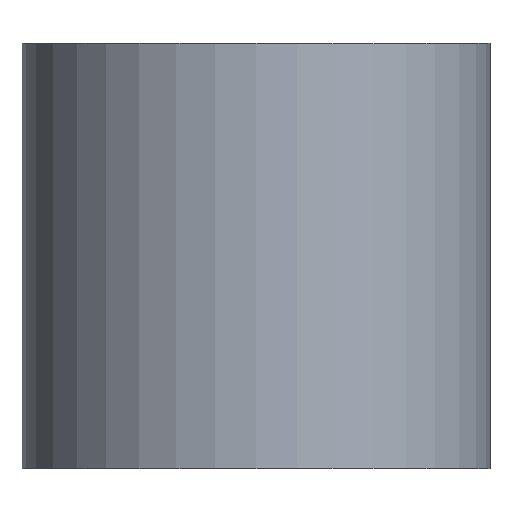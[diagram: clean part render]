
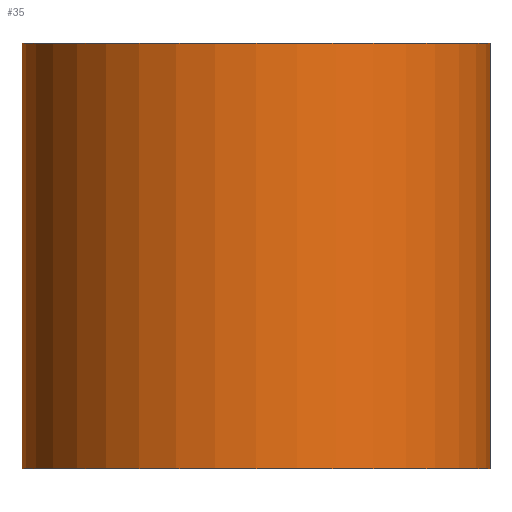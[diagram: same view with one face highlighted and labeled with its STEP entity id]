
A CAD part, front view. The second image highlights one B-rep face of the part: STEP entity #35.
In plain terms, the highlighted cylindrical face has radius 2750 mm (diameter 5500 mm), a full revolution.
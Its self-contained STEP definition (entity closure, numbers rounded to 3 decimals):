
#35 = ADVANCED_FACE('',(#36),#50,.T.);
#36 = FACE_BOUND('',#37,.F.);
#37 = EDGE_LOOP('',(#38,#68,#95,#96));
#38 = ORIENTED_EDGE('',*,*,#39,.T.);
#39 = EDGE_CURVE('',#40,#42,#44,.T.);
#40 = VERTEX_POINT('',#41);
#41 = CARTESIAN_POINT('',(2750.,0.,0.));
#42 = VERTEX_POINT('',#43);
#43 = CARTESIAN_POINT('',(2750.,0.,5000.));
#44 = SEAM_CURVE('',#45,(#49,#61),.PCURVE_S1.);
#45 = LINE('',#46,#47);
#46 = CARTESIAN_POINT('',(2750.,0.,0.));
#47 = VECTOR('',#48,1.);
#48 = DIRECTION('',(0.,0.,1.));
#49 = PCURVE('',#50,#55);
#50 = CYLINDRICAL_SURFACE('',#51,2750.);
#51 = AXIS2_PLACEMENT_3D('',#52,#53,#54);
#52 = CARTESIAN_POINT('',(0.,0.,0.));
#53 = DIRECTION('',(-0.,-0.,-1.));
#54 = DIRECTION('',(1.,0.,0.));
#55 = DEFINITIONAL_REPRESENTATION('',(#56),#60);
#56 = LINE('',#57,#58);
#57 = CARTESIAN_POINT('',(-0.,0.));
#58 = VECTOR('',#59,1.);
#59 = DIRECTION('',(-0.,-1.));
#60 = ( GEOMETRIC_REPRESENTATION_CONTEXT(2) 
PARAMETRIC_REPRESENTATION_CONTEXT() REPRESENTATION_CONTEXT('2D SPACE',''
  ) );
#61 = PCURVE('',#50,#62);
#62 = DEFINITIONAL_REPRESENTATION('',(#63),#67);
#63 = LINE('',#64,#65);
#64 = CARTESIAN_POINT('',(-6.283,0.));
#65 = VECTOR('',#66,1.);
#66 = DIRECTION('',(-0.,-1.));
#67 = ( GEOMETRIC_REPRESENTATION_CONTEXT(2) 
PARAMETRIC_REPRESENTATION_CONTEXT() REPRESENTATION_CONTEXT('2D SPACE',''
  ) );
#68 = ORIENTED_EDGE('',*,*,#69,.T.);
#69 = EDGE_CURVE('',#42,#42,#70,.T.);
#70 = SURFACE_CURVE('',#71,(#76,#83),.PCURVE_S1.);
#71 = CIRCLE('',#72,2750.);
#72 = AXIS2_PLACEMENT_3D('',#73,#74,#75);
#73 = CARTESIAN_POINT('',(0.,0.,5000.));
#74 = DIRECTION('',(0.,0.,1.));
#75 = DIRECTION('',(1.,0.,0.));
#76 = PCURVE('',#50,#77);
#77 = DEFINITIONAL_REPRESENTATION('',(#78),#82);
#78 = LINE('',#79,#80);
#79 = CARTESIAN_POINT('',(-0.,-5000.));
#80 = VECTOR('',#81,1.);
#81 = DIRECTION('',(-1.,0.));
#82 = ( GEOMETRIC_REPRESENTATION_CONTEXT(2) 
PARAMETRIC_REPRESENTATION_CONTEXT() REPRESENTATION_CONTEXT('2D SPACE',''
  ) );
#83 = PCURVE('',#84,#89);
#84 = PLANE('',#85);
#85 = AXIS2_PLACEMENT_3D('',#86,#87,#88);
#86 = CARTESIAN_POINT('',(0.,0.,5000.)
  );
#87 = DIRECTION('',(0.,0.,1.));
#88 = DIRECTION('',(1.,0.,0.));
#89 = DEFINITIONAL_REPRESENTATION('',(#90),#94);
#90 = CIRCLE('',#91,2750.);
#91 = AXIS2_PLACEMENT_2D('',#92,#93);
#92 = CARTESIAN_POINT('',(0.,0.));
#93 = DIRECTION('',(1.,0.));
#94 = ( GEOMETRIC_REPRESENTATION_CONTEXT(2) 
PARAMETRIC_REPRESENTATION_CONTEXT() REPRESENTATION_CONTEXT('2D SPACE',''
  ) );
#95 = ORIENTED_EDGE('',*,*,#39,.F.);
#96 = ORIENTED_EDGE('',*,*,#97,.F.);
#97 = EDGE_CURVE('',#40,#40,#98,.T.);
#98 = SURFACE_CURVE('',#99,(#104,#111),.PCURVE_S1.);
#99 = CIRCLE('',#100,2750.);
#100 = AXIS2_PLACEMENT_3D('',#101,#102,#103);
#101 = CARTESIAN_POINT('',(0.,0.,0.));
#102 = DIRECTION('',(0.,0.,1.));
#103 = DIRECTION('',(1.,0.,0.));
#104 = PCURVE('',#50,#105);
#105 = DEFINITIONAL_REPRESENTATION('',(#106),#110);
#106 = LINE('',#107,#108);
#107 = CARTESIAN_POINT('',(-0.,0.));
#108 = VECTOR('',#109,1.);
#109 = DIRECTION('',(-1.,0.));
#110 = ( GEOMETRIC_REPRESENTATION_CONTEXT(2) 
PARAMETRIC_REPRESENTATION_CONTEXT() REPRESENTATION_CONTEXT('2D SPACE',''
  ) );
#111 = PCURVE('',#112,#117);
#112 = PLANE('',#113);
#113 = AXIS2_PLACEMENT_3D('',#114,#115,#116);
#114 = CARTESIAN_POINT('',(0.,0.,0.));
#115 = DIRECTION('',(0.,0.,1.));
#116 = DIRECTION('',(1.,0.,0.));
#117 = DEFINITIONAL_REPRESENTATION('',(#118),#122);
#118 = CIRCLE('',#119,2750.);
#119 = AXIS2_PLACEMENT_2D('',#120,#121);
#120 = CARTESIAN_POINT('',(0.,0.));
#121 = DIRECTION('',(1.,0.));
#122 = ( GEOMETRIC_REPRESENTATION_CONTEXT(2) 
PARAMETRIC_REPRESENTATION_CONTEXT() REPRESENTATION_CONTEXT('2D SPACE',''
  ) );
